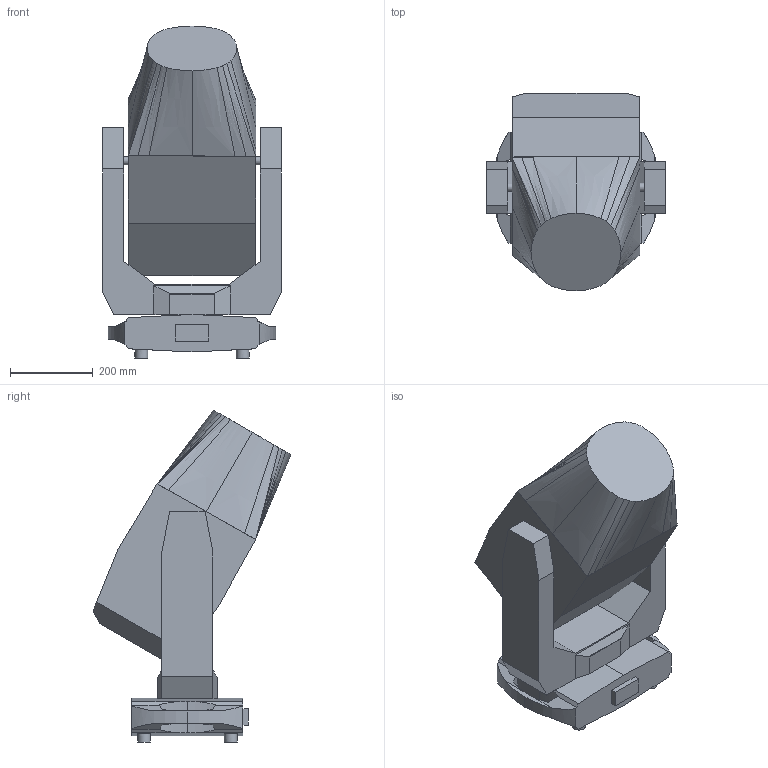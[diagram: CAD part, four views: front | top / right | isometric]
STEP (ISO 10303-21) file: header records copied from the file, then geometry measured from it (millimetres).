
FILE_DESCRIPTION(/* description */ (''),/* implementation_level */ '2;1');
FILE_NAME(/* name */ 'D:/dgooch/Documents/CADENG/PRO/Maverick Silens 2 Profile/30/3D/Maverick Silens 2 Profile_30.step',/* time_stamp */ '2019-09-06T08:49:51-04:00',/* author */ (''),/* organization */ (''),/* preprocessor_version */ 'ST-DEVELOPER v18',/* originating_system */ 'Autodesk Translation Framework v8.6.0.1094',/* authorisation */ '');
FILE_SCHEMA (('AUTOMOTIVE_DESIGN { 1 0 10303 214 3 1 1 }'));
Length unit declared in the file: millimetre
Products named in the file (3): Maverick Silens 2 Profile; Head; Base
Assembly tree (2 placements, depth 2):
  Maverick Silens 2 Profile
    Head
    Base
Bounding box: 432.79 x 479.06 x 803.57 mm (x, y, z)
Volume: 59098767.1 mm3; surface area: 1495333.6 mm2
Topology: 2 solids, 2 shells, 118 faces, 334 edges, 221 vertices
Faces by surface type: plane 76, bspline 24, cylinder 18
Full cylindrical faces by diameter (mm): 20 x2, 31 x4
Entity records: 5529 total; most frequent: CARTESIAN_POINT 2452, ORIENTED_EDGE 668, DIRECTION 556, EDGE_CURVE 334, LINE 238, VECTOR 238, VERTEX_POINT 221, AXIS2_PLACEMENT_3D 159
